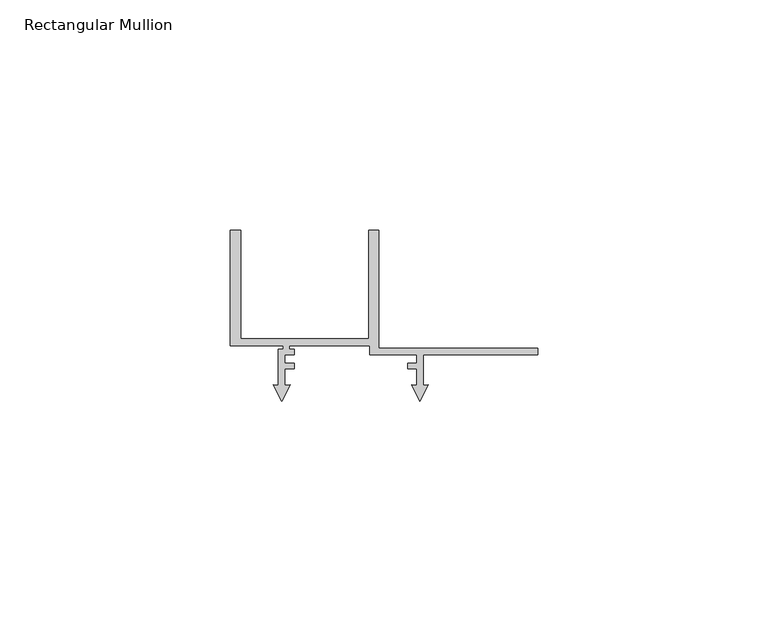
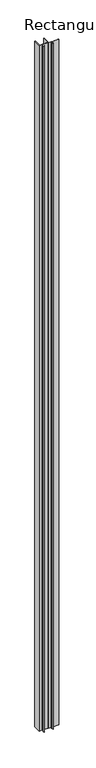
"""IFC4 building model written with IfcOpenShell, lengths in millimetres: member geometry, Rectangular Mullion : Renson_Linarte_LA-E25-01 Zone B."""

from ifc_helpers import new_model, si_unit, frame, origin, place, context, project, spatial, polyline, outline, extrude, source, transform, mapped, element, save


def rectangular_mullion_776733ef(model_context):
    return source(origin(), model_context, "Body", "SweptSolid", [
        extrude(outline(polyline([(66.6, 21.6000494), (66.6, 20.1000494), (41.8, 20.1000494), (41.8, 13.5071867), (42.9255299, 13.6056578), (41.0999986, 10.0228474), (39.2744672, 13.6056581), (40.3999998, 13.5071867), (40.3999998, 17.099221), (38.4077357, 17.099221), (38.4077357, 18.3000494), (40.3999995, 18.3000494), (40.3999995, 20.1000494), (30.1732051, 20.1000494), (30.1732051, 22.1000494), (12.8, 22.1000494), (12.8, 21.3015754), (13.7880766, 21.3015754), (13.7880766, 20.1000494), (11.8091794, 20.1000494), (11.8091794, 18.3000494), (13.7875618, 18.3000494), (13.7875618, 17.0979618), (11.7999987, 17.0979618), (11.7999987, 13.5038712), (12.9157351, 13.6014855), (11.0999986, 10.037898), (9.284262, 13.6014855), (10.3999985, 13.5038712), (10.3999985, 21.3015754), (11.4, 21.3015754), (11.4, 22.1000494), (0.0, 22.1000494), (0.0, 47.1000494), (2.2, 47.1000494), (2.2, 23.6000494), (30.0, 23.6000494), (30.0, 47.1000494), (32.2, 47.1000494), (32.2, 21.6000494), (66.6, 21.6000494)])), frame((0.0, 0.0, -2475.0), z_axis=(0.0, 0.0, 1.0), x_axis=(1.0, 0.0, 0.0)), (0.0, 0.0, 1.0), 2475.0),
    ])


if __name__ == "__main__":
    model = new_model("IFC4")
    model_context = context("Model", 3, world=origin())
    ifc_project = project(units=[si_unit("LENGTHUNIT", "METRE", prefix="MILLI")], contexts=[model_context])
    site = spatial("IfcSite", under=ifc_project)
    building = spatial("IfcBuilding", under=site)
    placement = place(None, origin())
    rectangular_mullion_shape = rectangular_mullion_776733ef(model_context)
    element("IfcMember", 1, ObjectType="Rectangular Mullion : Renson_Linarte_LA-E25-01 Zone B", at=placement, inside=building, context=model_context, shape_type="MappedRepresentation", body=[
        mapped(rectangular_mullion_shape, transform((0.0, 0.0, 0.0), x_axis=(1.0, 0.0, 0.0), y_axis=(0.0, 1.0, 0.0), z_axis=(0.0, 0.0, 1.0))),
    ])
    save(model, "model.ifc")
